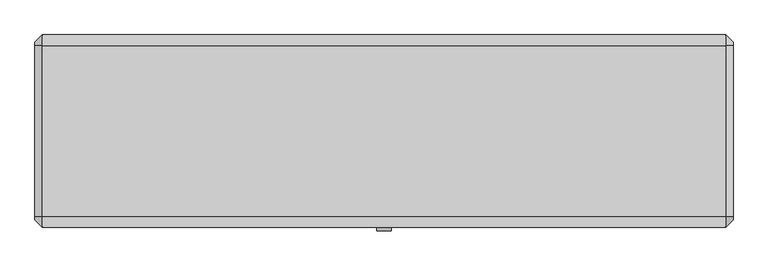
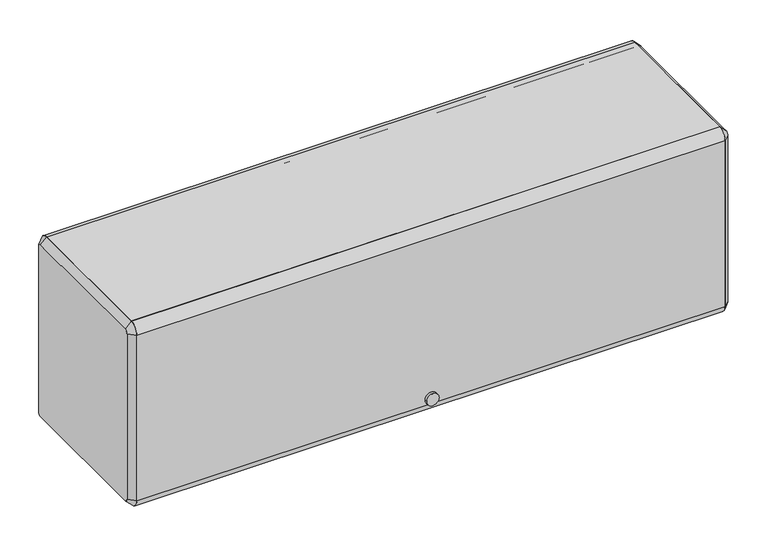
"""IFC4 building model written with IfcOpenShell, lengths in millimetres: furniture geometry."""

from ifc_helpers import new_model, si_unit, point, frame, frame_2d, origin, place, context, project, spatial, polyline, circle_curve, trimmed, segment, composite_curve, outline, extrude, source, transform, mapped, element, save
from ifc_brep_helpers import plane_surface, revolved_surface, advanced_brep


def furniture_1a24d834(model_context):
    return source(origin(), model_context, "Body", "SolidModel", [
        extrude(outline(composite_curve([segment(polyline([(-136.525, 1917.7), (-136.525, 1930.4), (161.925, 1930.4)]), True, "CONTINUOUS"), segment(trimmed(circle_curve(frame_2d((161.925, 1911.35)), 19.05), [point((161.925, 1930.4))], [point((180.975, 1911.35))], False, "CARTESIAN"), True, "CONTINUOUS"), segment(polyline([(180.975, 1911.35), (168.275, 1911.35)]), True, "CONTINUOUS"), segment(trimmed(circle_curve(frame_2d((161.925, 1911.35)), 6.35), [point((168.275, 1911.35))], [point((161.925, 1917.7))], True, "CARTESIAN"), True, "CONTINUOUS"), segment(polyline([(161.925, 1917.7), (-136.525, 1917.7)]), True, "CONTINUOUS")], self_intersect=False)), frame((-596.9, 0.0, 0.0), z_axis=(1.0, 0.0, 0.0), x_axis=(0.0, 1.0, 0.0)), (0.0, 0.0, 1.0), 1193.8),
        extrude(outline(composite_curve([segment(trimmed(circle_curve(frame_2d((-136.525, 1911.35)), 19.05), [point((-155.575, 1911.35))], [point((-136.525, 1930.4))], False, "CARTESIAN"), True, "CONTINUOUS"), segment(polyline([(-136.525, 1930.4), (-136.525, 1917.7)]), True, "CONTINUOUS"), segment(trimmed(circle_curve(frame_2d((-136.525, 1911.35)), 6.35), [point((-136.525, 1917.7))], [point((-142.875, 1911.35))], True, "CARTESIAN"), True, "CONTINUOUS"), segment(polyline([(-142.875, 1911.35), (-142.875, 1555.75)]), True, "CONTINUOUS"), segment(trimmed(circle_curve(frame_2d((-136.525, 1555.75)), 6.35), [point((-142.875, 1555.75))], [point((-136.525, 1549.4))], True, "CARTESIAN"), True, "CONTINUOUS"), segment(polyline([(-136.525, 1549.4), (-136.525, 1536.7)]), True, "CONTINUOUS"), segment(trimmed(circle_curve(frame_2d((-136.525, 1555.75)), 19.05), [point((-136.525, 1536.7))], [point((-155.575, 1555.75))], False, "CARTESIAN"), True, "CONTINUOUS"), segment(polyline([(-155.575, 1555.75), (-155.575, 1911.35)]), True, "CONTINUOUS")], self_intersect=False)), frame((-596.9, 0.0, 0.0), z_axis=(1.0, 0.0, 0.0), x_axis=(0.0, 1.0, 0.0)), (0.0, 0.0, 1.0), 1193.8),
        extrude(outline(composite_curve([segment(trimmed(circle_curve(frame_2d((1568.4118906, 0.0201199)), 12.7253951), [point((1568.4118906, 12.745515))], [point((1568.4118906, -12.7052752))], False, "CARTESIAN"), True, "CONTINUOUS"), segment(trimmed(circle_curve(frame_2d((1568.4118906, 0.0201199)), 12.7253951), [point((1568.4118906, -12.7052752))], [point((1568.4118906, 12.745515))], False, "CARTESIAN"), True, "CONTINUOUS")], self_intersect=False)), frame((0.0, -161.925, 0.0), z_axis=(0.0, 1.0, 0.0), x_axis=(0.0, 0.0, 1.0)), (0.0, 0.0, 1.0), 6.35),
        extrude(outline(polyline([(-136.525, 1574.8), (161.925, 1574.8), (161.925, 1612.9), (174.625, 1612.9), (174.625, 1609.725), (165.1, 1609.725), (165.1, 1571.625), (-133.35, 1571.625), (-133.35, 1552.575), (-136.525, 1552.575), (-136.525, 1574.8)])), frame((-596.9, 0.0, 0.0), z_axis=(1.0, 0.0, 0.0), x_axis=(0.0, 1.0, 0.0)), (0.0, 0.0, 1.0), 1193.8),
        advanced_brep(
        [(609.6, 161.925, 1917.7), (609.6, -136.525, 1917.7), (609.6, -142.875, 1911.35), (609.6, -142.875, 1555.75), (609.6, -136.525, 1549.4), (609.6, 161.925, 1549.4), (609.6, 168.275, 1555.75), (609.6, 168.275, 1911.35), (596.9, 161.925, 1930.4), (596.9, 180.975, 1911.35), (596.9, 180.975, 1555.75), (596.9, 161.925, 1536.7), (596.9, -136.525, 1536.7), (596.9, -155.575, 1555.75), (596.9, -155.575, 1911.35), (596.9, -136.525, 1930.4)],
        [
            (0, 1),
            (1, 2, circle_curve(frame((609.6, -136.525, 1911.35), z_axis=(1.0, 6.490807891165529e-12, -6.586731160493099e-12), x_axis=(6.586694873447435e-12, 0.0, 1.0)), 6.35)),
            (2, 3),
            (3, 4, circle_curve(frame((609.6, -136.525, 1555.75), z_axis=(1.0, 3.3733016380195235e-12, 3.3892888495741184e-12), x_axis=(3.373343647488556e-12, -1.0, 0.0)), 6.35)),
            (4, 5),
            (5, 6, circle_curve(frame((609.6, 161.925, 1555.75), z_axis=(1.0, 3.381295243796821e-12, -3.3892888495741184e-12), x_axis=(-3.389358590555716e-12, 0.0, -1.0)), 6.35)),
            (6, 7),
            (7, 0, circle_curve(frame((609.6, 161.925, 1911.35), z_axis=(1.0, 6.482814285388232e-12, 6.416200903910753e-12), x_axis=(-6.48275475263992e-12, 1.0, 0.0)), 6.35)),
            (8, 9, circle_curve(frame((596.9, 161.925, 1911.35), z_axis=(-1.0, -6.482814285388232e-12, -6.416200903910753e-12), x_axis=(-6.48275475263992e-12, 1.0, 0.0)), 19.05)),
            (9, 10),
            (10, 11, circle_curve(frame((596.9, 161.925, 1555.75), z_axis=(-1.0, -3.381295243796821e-12, 3.3892888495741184e-12), x_axis=(-3.389358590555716e-12, 0.0, -1.0)), 19.05)),
            (11, 12),
            (12, 13, circle_curve(frame((596.9, -136.525, 1555.75), z_axis=(-1.0, -3.3733016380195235e-12, -3.3892888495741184e-12), x_axis=(3.373343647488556e-12, -1.0, 0.0)), 19.05)),
            (13, 14),
            (14, 15, circle_curve(frame((596.9, -136.525, 1911.35), z_axis=(-1.0, -6.490807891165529e-12, 6.586731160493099e-12), x_axis=(6.586694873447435e-12, 0.0, 1.0)), 19.05)),
            (15, 8),
            (15, 1),
            (0, 8),
            (14, 2),
            (13, 3),
            (12, 4),
            (11, 5),
            (10, 6),
            (9, 7),
        ],
        [
            plane_surface(frame((609.6, 12.7, 1733.55), z_axis=(1.0, 0.0, 0.0), x_axis=(0.0, -1.0, 0.0))),
            plane_surface(frame((596.9, 12.7, 1733.55), z_axis=(-1.0, 0.0, 0.0), x_axis=(0.0, -1.0, 0.0))),
            plane_surface(frame((596.9, 12.7, 1930.4), z_axis=(0.7071067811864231, 0.0, 0.7071067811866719), x_axis=(0.0, -1.0, 0.0))),
            revolved_surface(polyline([(609.6000000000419, -136.525, 1917.6999999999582), (596.9, -136.525, 1930.4)]), (615.95, -136.525, 1911.35), (-1.0, -6.490807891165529e-12, 6.586731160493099e-12)),
            plane_surface(frame((596.9, -155.575, 1733.55), z_axis=(0.7071067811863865, -0.7071067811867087, 0.0), x_axis=(0.0, 0.0, -1.0))),
            revolved_surface(polyline([(609.6000000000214, -142.87499999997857, 1555.75), (596.8999999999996, -155.5750000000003, 1555.75)]), (615.95, -136.525, 1555.75), (-1.0, -3.3733016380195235e-12, -3.3892888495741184e-12)),
            plane_surface(frame((596.9, 12.7, 1536.7), z_axis=(0.7071067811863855, 0.0, -0.7071067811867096), x_axis=(0.0, 1.0, 0.0))),
            revolved_surface(polyline([(609.6, 161.925, 1549.4), (596.8999999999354, 161.925, 1536.6999999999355)]), (615.95, 161.925, 1555.75), (-1.0, -3.381295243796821e-12, 3.3892888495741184e-12)),
            plane_surface(frame((596.9, 180.975, 1733.55), z_axis=(0.7071067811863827, 0.7071067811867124, 0.0), x_axis=(0.0, 0.0, 1.0))),
            revolved_surface(polyline([(609.6, 168.275, 1911.35), (596.8999999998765, 180.9750000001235, 1911.35)]), (615.95, 161.925, 1911.35), (-1.0, -6.482814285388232e-12, -6.416200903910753e-12)),
        ],
        [
            (0, [[1, 2, 3, 4, 5, 6, 7, 8]]),
            (1, [[9, 10, 11, 12, 13, 14, 15, 16]]),
            (2, [[-16, 17, -1, 18]]),
            (3, [[-15, 19, -2, -17]]),
            (4, [[-14, 20, -3, -19]]),
            (5, [[-13, 21, -4, -20]]),
            (6, [[-12, 22, -5, -21]]),
            (7, [[-11, 23, -6, -22]]),
            (8, [[-10, 24, -7, -23]]),
            (9, [[-9, -18, -8, -24]]),
        ],
    ),
        advanced_brep(
        [(-609.6, -136.525, 1917.7), (-609.6, 161.925, 1917.7), (-609.6, 168.275, 1911.35), (-609.6, 168.275, 1555.75), (-609.6, 161.925, 1549.4), (-609.6, -136.525, 1549.4), (-609.6, -142.875, 1555.75), (-609.6, -142.875, 1911.35), (-596.9, -136.525, 1930.4), (-596.9, -155.575, 1911.35), (-596.9, -155.575, 1555.75), (-596.9, -136.525, 1536.7), (-596.9, 161.925, 1536.7), (-596.9, 180.975, 1555.75), (-596.9, 180.975, 1911.35), (-596.9, 161.925, 1930.4)],
        [
            (0, 1),
            (1, 2, circle_curve(frame((-609.6, 161.925, 1911.35), z_axis=(-1.0, 3.365308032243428e-12, 3.4106051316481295e-12), x_axis=(3.410554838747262e-12, 0.0, 1.0)), 6.35)),
            (2, 3),
            (3, 4, circle_curve(frame((-609.6, 161.925, 1555.75), z_axis=(-1.0, 0.0, 0.0), x_axis=(0.0, 1.0, 0.0)), 6.35)),
            (4, 5),
            (5, 6, circle_curve(frame((-609.6, -136.525, 1555.75), z_axis=(-1.0, 0.0, 0.0), x_axis=(0.0, 0.0, -1.0)), 6.35)),
            (6, 7),
            (7, 0, circle_curve(frame((-609.6, -136.525, 1911.35), z_axis=(-1.0, 3.381295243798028e-12, -3.3040237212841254e-12), x_axis=(-3.3813511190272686e-12, -1.0, 0.0)), 6.35)),
            (8, 9, circle_curve(frame((-596.9, -136.525, 1911.35), z_axis=(1.0, -3.381295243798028e-12, 3.3040237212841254e-12), x_axis=(-3.3813511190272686e-12, -1.0, 0.0)), 19.05)),
            (9, 10),
            (10, 11, circle_curve(frame((-596.9, -136.525, 1555.75), z_axis=(1.0, 0.0, 0.0), x_axis=(0.0, 0.0, -1.0)), 19.05)),
            (11, 12),
            (12, 13, circle_curve(frame((-596.9, 161.925, 1555.75), z_axis=(1.0, 0.0, 0.0), x_axis=(0.0, 1.0, 0.0)), 19.05)),
            (13, 14),
            (14, 15, circle_curve(frame((-596.9, 161.925, 1911.35), z_axis=(1.0, -3.365308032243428e-12, -3.4106051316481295e-12), x_axis=(3.410554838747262e-12, 0.0, 1.0)), 19.05)),
            (15, 8),
            (15, 1),
            (0, 8),
            (14, 2),
            (13, 3),
            (12, 4),
            (11, 5),
            (10, 6),
            (9, 7),
        ],
        [
            plane_surface(frame((-609.6, 12.7, 1733.55), z_axis=(-1.0, 0.0, 0.0), x_axis=(0.0, -1.0, 0.0))),
            plane_surface(frame((-596.9, 12.7, 1733.55), z_axis=(1.0, 0.0, 0.0), x_axis=(0.0, -1.0, 0.0))),
            plane_surface(frame((-596.9, 12.7, 1930.4), z_axis=(-0.7071067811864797, 0.0, 0.7071067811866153), x_axis=(0.0, 1.0, 0.0))),
            revolved_surface(polyline([(-609.6, 161.925, 1917.7), (-596.8999999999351, 161.925, 1930.4000000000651)]), (-615.95, 161.925, 1911.35), (1.0, -3.365308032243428e-12, -3.4106051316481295e-12)),
            plane_surface(frame((-596.9, 180.975, 1733.55), z_axis=(-0.7071067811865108, 0.7071067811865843, 0.0), x_axis=(0.0, 0.0, -1.0))),
            revolved_surface(polyline([(-609.6, 168.275, 1555.75), (-596.9, 180.975, 1555.75)]), (-615.95, 161.925, 1555.75), (1.0, 0.0, 0.0)),
            plane_surface(frame((-596.9, 12.7, 1536.7), z_axis=(-0.7071067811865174, 0.0, -0.7071067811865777), x_axis=(0.0, -1.0, 0.0))),
            revolved_surface(polyline([(-609.6, -136.525, 1549.4), (-596.9, -136.525, 1536.7)]), (-615.95, -136.525, 1555.75), (1.0, 0.0, 0.0)),
            plane_surface(frame((-596.9, -155.575, 1733.55), z_axis=(-0.7071067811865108, -0.7071067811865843, 0.0), x_axis=(0.0, 0.0, 1.0))),
            revolved_surface(polyline([(-609.6000000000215, -142.87499999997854, 1911.35), (-596.9, -155.575, 1911.35)]), (-615.95, -136.525, 1911.35), (1.0, -3.381295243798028e-12, 3.3040237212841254e-12)),
        ],
        [
            (0, [[1, 2, 3, 4, 5, 6, 7, 8]]),
            (1, [[9, 10, 11, 12, 13, 14, 15, 16]]),
            (2, [[-16, 17, -1, 18]]),
            (3, [[-15, 19, -2, -17]]),
            (4, [[-14, 20, -3, -19]]),
            (5, [[-13, 21, -4, -20]]),
            (6, [[-12, 22, -5, -21]]),
            (7, [[-11, 23, -6, -22]]),
            (8, [[-10, 24, -7, -23]]),
            (9, [[-9, -18, -8, -24]]),
        ],
    ),
    ])


if __name__ == "__main__":
    model = new_model("IFC4")
    model_context = context("Model", 3, world=origin())
    ifc_project = project(units=[si_unit("LENGTHUNIT", "METRE", prefix="MILLI")], contexts=[model_context])
    site = spatial("IfcSite", under=ifc_project)
    building = spatial("IfcBuilding", under=site)
    placement = place(None, origin())
    furniture_shape = furniture_1a24d834(model_context)
    element("IfcFurniture", 1, ObjectType="HermanMiller_ActionOffice_A3352_B-StyleFlipperDoorUnit : 15 1/2\"H x 13\"D x 48\"W", at=placement, inside=building, context=model_context, shape_type="MappedRepresentation", body=[
        mapped(furniture_shape, transform((0.0, 0.0, 0.0), x_axis=(1.0, 0.0, 0.0), y_axis=(0.0, 1.0, 0.0), z_axis=(0.0, 0.0, 1.0))),
    ])
    save(model, "model.ifc")
